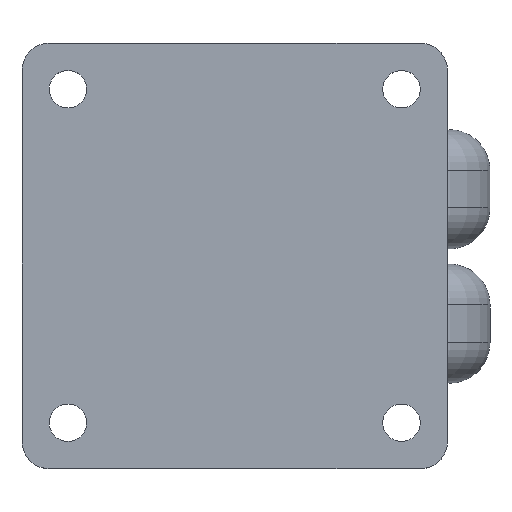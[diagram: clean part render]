
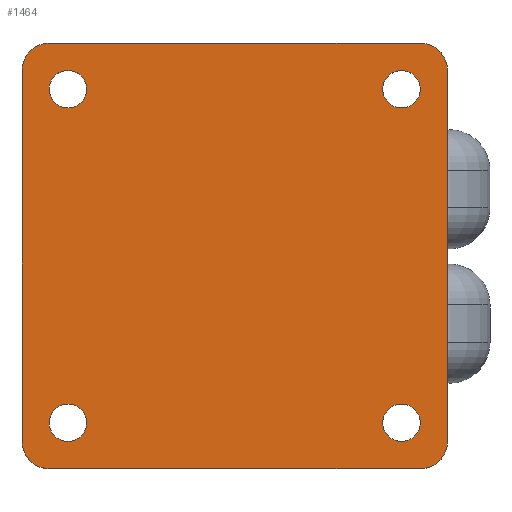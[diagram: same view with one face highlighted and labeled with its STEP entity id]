
A CAD part, top view. The second image highlights one B-rep face of the part: STEP entity #1464.
In plain terms, the highlighted planar face has unit normal (0, 0, 1).
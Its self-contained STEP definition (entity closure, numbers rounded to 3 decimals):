
#357=LINE('',#11377,#1819);
#358=LINE('',#11382,#1820);
#359=LINE('',#11386,#1821);
#360=LINE('',#11390,#1822);
#944=PLANE('',#6289);
#1081=CIRCLE('',#6281,8.);
#1082=CIRCLE('',#6282,8.);
#1083=CIRCLE('',#6283,8.);
#1084=CIRCLE('',#6284,8.);
#1085=CIRCLE('',#6285,5.5);
#1086=CIRCLE('',#6286,5.5);
#1087=CIRCLE('',#6287,5.5);
#1088=CIRCLE('',#6288,5.5);
#1464=ADVANCED_FACE('',(#1988,#1989,#1990,#1991,#1992),#944,.F.);
#1819=VECTOR('',#7484,1.);
#1820=VECTOR('',#7487,1.);
#1821=VECTOR('',#7490,1.);
#1822=VECTOR('',#7493,1.);
#1988=FACE_BOUND('',#2453,.T.);
#1989=FACE_BOUND('',#2454,.T.);
#1990=FACE_BOUND('',#2455,.T.);
#1991=FACE_BOUND('',#2456,.T.);
#1992=FACE_BOUND('',#2457,.T.);
#2453=EDGE_LOOP('',(#4045,#4046,#4047,#4048,#4049,#4050,#4051,#4052));
#2454=EDGE_LOOP('',(#4053));
#2455=EDGE_LOOP('',(#4054));
#2456=EDGE_LOOP('',(#4055));
#2457=EDGE_LOOP('',(#4056));
#4045=ORIENTED_EDGE('',*,*,#5491,.T.);
#4046=ORIENTED_EDGE('',*,*,#5492,.T.);
#4047=ORIENTED_EDGE('',*,*,#5493,.T.);
#4048=ORIENTED_EDGE('',*,*,#5494,.T.);
#4049=ORIENTED_EDGE('',*,*,#5495,.T.);
#4050=ORIENTED_EDGE('',*,*,#5496,.T.);
#4051=ORIENTED_EDGE('',*,*,#5497,.T.);
#4052=ORIENTED_EDGE('',*,*,#5498,.T.);
#4053=ORIENTED_EDGE('',*,*,#5499,.T.);
#4054=ORIENTED_EDGE('',*,*,#5500,.T.);
#4055=ORIENTED_EDGE('',*,*,#5501,.T.);
#4056=ORIENTED_EDGE('',*,*,#5502,.T.);
#4684=VERTEX_POINT('',#11378);
#4685=VERTEX_POINT('',#11379);
#4686=VERTEX_POINT('',#11381);
#4687=VERTEX_POINT('',#11383);
#4688=VERTEX_POINT('',#11385);
#4689=VERTEX_POINT('',#11387);
#4690=VERTEX_POINT('',#11389);
#4691=VERTEX_POINT('',#11391);
#4692=VERTEX_POINT('',#11394);
#4693=VERTEX_POINT('',#11396);
#4694=VERTEX_POINT('',#11398);
#4695=VERTEX_POINT('',#11400);
#5491=EDGE_CURVE('',#4684,#4685,#357,.T.);
#5492=EDGE_CURVE('',#4685,#4686,#1081,.T.);
#5493=EDGE_CURVE('',#4686,#4687,#358,.T.);
#5494=EDGE_CURVE('',#4687,#4688,#1082,.T.);
#5495=EDGE_CURVE('',#4688,#4689,#359,.T.);
#5496=EDGE_CURVE('',#4689,#4690,#1083,.T.);
#5497=EDGE_CURVE('',#4690,#4691,#360,.T.);
#5498=EDGE_CURVE('',#4691,#4684,#1084,.T.);
#5499=EDGE_CURVE('',#4692,#4692,#1085,.T.);
#5500=EDGE_CURVE('',#4693,#4693,#1086,.T.);
#5501=EDGE_CURVE('',#4694,#4694,#1087,.T.);
#5502=EDGE_CURVE('',#4695,#4695,#1088,.T.);
#6281=AXIS2_PLACEMENT_3D('',#11380,#7485,#7486);
#6282=AXIS2_PLACEMENT_3D('',#11384,#7488,#7489);
#6283=AXIS2_PLACEMENT_3D('',#11388,#7491,#7492);
#6284=AXIS2_PLACEMENT_3D('',#11392,#7494,#7495);
#6285=AXIS2_PLACEMENT_3D('',#11393,#7496,#7497);
#6286=AXIS2_PLACEMENT_3D('',#11395,#7498,#7499);
#6287=AXIS2_PLACEMENT_3D('',#11397,#7500,#7501);
#6288=AXIS2_PLACEMENT_3D('',#11399,#7502,#7503);
#6289=AXIS2_PLACEMENT_3D('',#11401,#7504,#7505);
#7484=DIRECTION('',(1.,0.,0.));
#7485=DIRECTION('',(0.,0.,1.));
#7486=DIRECTION('',(0.,1.,0.));
#7487=DIRECTION('',(0.,1.,0.));
#7488=DIRECTION('',(0.,0.,1.));
#7489=DIRECTION('',(0.,1.,0.));
#7490=DIRECTION('',(-1.,0.,0.));
#7491=DIRECTION('',(0.,0.,1.));
#7492=DIRECTION('',(0.,1.,0.));
#7493=DIRECTION('',(0.,-1.,0.));
#7494=DIRECTION('',(0.,0.,1.));
#7495=DIRECTION('',(0.,1.,0.));
#7496=DIRECTION('',(0.,0.,-1.));
#7497=DIRECTION('',(0.,1.,0.));
#7498=DIRECTION('',(0.,0.,-1.));
#7499=DIRECTION('',(0.,1.,0.));
#7500=DIRECTION('',(0.,0.,-1.));
#7501=DIRECTION('',(0.,1.,0.));
#7502=DIRECTION('',(0.,0.,-1.));
#7503=DIRECTION('',(0.,1.,0.));
#7504=DIRECTION('',(0.,0.,-1.));
#7505=DIRECTION('',(0.,1.,0.));
#11377=CARTESIAN_POINT('',(-62.5,-62.5,0.));
#11378=CARTESIAN_POINT('',(-54.5,-62.5,0.));
#11379=CARTESIAN_POINT('',(54.5,-62.5,0.));
#11380=CARTESIAN_POINT('',(54.5,-54.5,0.));
#11381=CARTESIAN_POINT('',(62.5,-54.5,0.));
#11382=CARTESIAN_POINT('',(62.5,-62.5,0.));
#11383=CARTESIAN_POINT('',(62.5,54.5,0.));
#11384=CARTESIAN_POINT('',(54.5,54.5,0.));
#11385=CARTESIAN_POINT('',(54.5,62.5,0.));
#11386=CARTESIAN_POINT('',(62.5,62.5,0.));
#11387=CARTESIAN_POINT('',(-54.5,62.5,0.));
#11388=CARTESIAN_POINT('',(-54.5,54.5,0.));
#11389=CARTESIAN_POINT('',(-62.5,54.5,0.));
#11390=CARTESIAN_POINT('',(-62.5,62.5,0.));
#11391=CARTESIAN_POINT('',(-62.5,-54.5,0.));
#11392=CARTESIAN_POINT('',(-54.5,-54.5,0.));
#11393=CARTESIAN_POINT('',(49.,-49.,0.));
#11394=CARTESIAN_POINT('',(49.,-43.5,0.));
#11395=CARTESIAN_POINT('',(-49.,-49.,0.));
#11396=CARTESIAN_POINT('',(-49.,-43.5,0.));
#11397=CARTESIAN_POINT('',(-49.,49.,0.));
#11398=CARTESIAN_POINT('',(-49.,54.5,0.));
#11399=CARTESIAN_POINT('',(49.,49.,0.));
#11400=CARTESIAN_POINT('',(49.,54.5,0.));
#11401=CARTESIAN_POINT('',(49.,-49.,0.));
